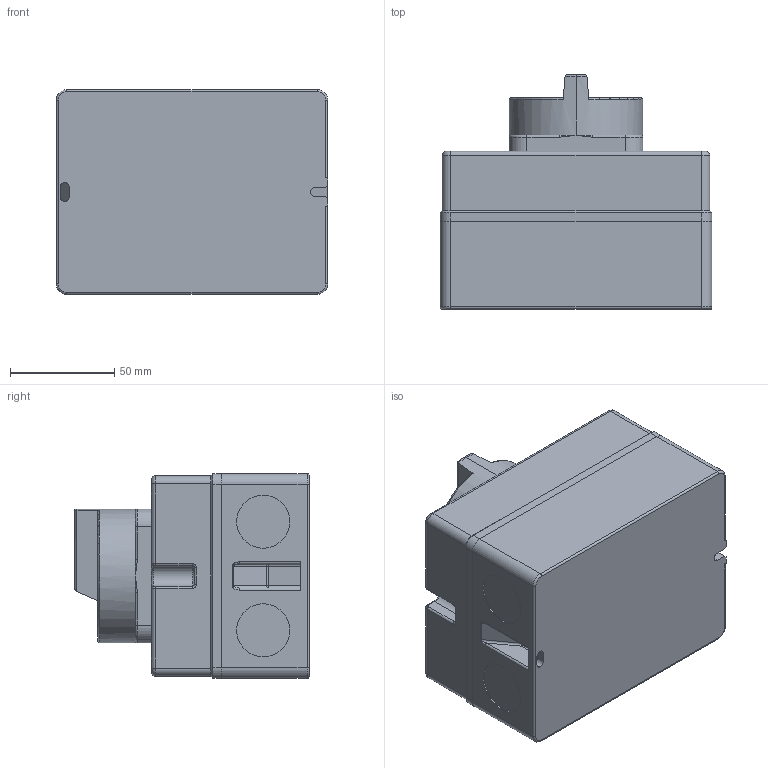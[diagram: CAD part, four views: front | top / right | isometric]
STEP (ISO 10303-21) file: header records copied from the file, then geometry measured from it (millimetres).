
FILE_DESCRIPTION (( 'STEP AP203' ), '1' );
FILE_NAME ('LTS20_25_32_40 PFHN4 A6.STEP', '2014-03-24T13:17:05', ( '' ), ( '' ), 'SwSTEP 2.0', 'SolidWorks 2014', '' );
FILE_SCHEMA (( 'CONFIG_CONTROL_DESIGN' ));
Length unit declared in the file: millimetre
Products named in the file (4): LTS20_25_32_40 PFHN4 A6; Unterteil_Gehäuse_LTS_PF1; Oberteil_LTS_PF1; SV4_64x64
Assembly tree (3 placements, depth 2):
  LTS20_25_32_40 PFHN4 A6
    Unterteil_Gehäuse_LTS_PF1
    Oberteil_LTS_PF1
    SV4_64x64
Bounding box: 130 x 112.2 x 98 mm (x, y, z)
Volume: 1006757.8 mm3; surface area: 104649.6 mm2
Topology: 3 solids, 3 shells, 206 faces, 501 edges, 298 vertices
Faces by surface type: cylinder 91, plane 65, torus 28, bspline 14, sphere 4, cone 4
Entity records: 6839 total; most frequent: CARTESIAN_POINT 1670, DIRECTION 1051, ORIENTED_EDGE 986, EDGE_CURVE 493, AXIS2_PLACEMENT_3D 411, VERTEX_POINT 298, VECTOR 229, LINE 229
